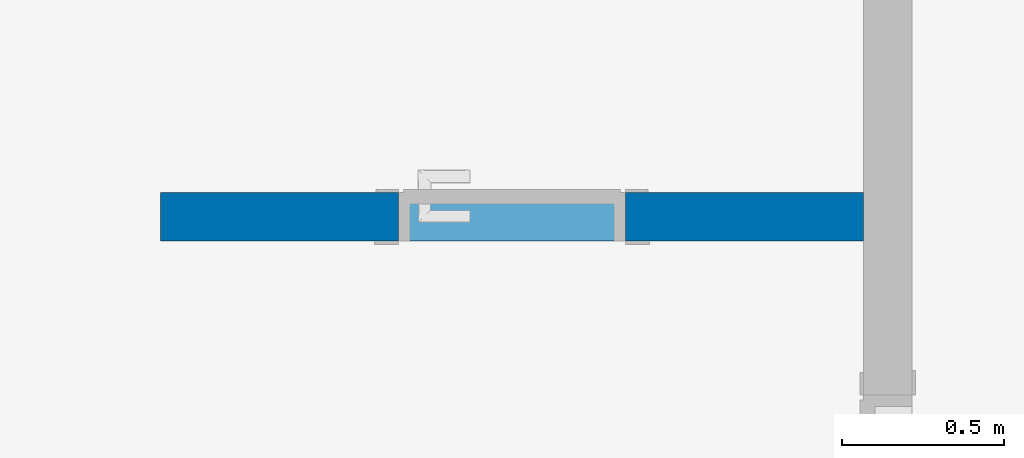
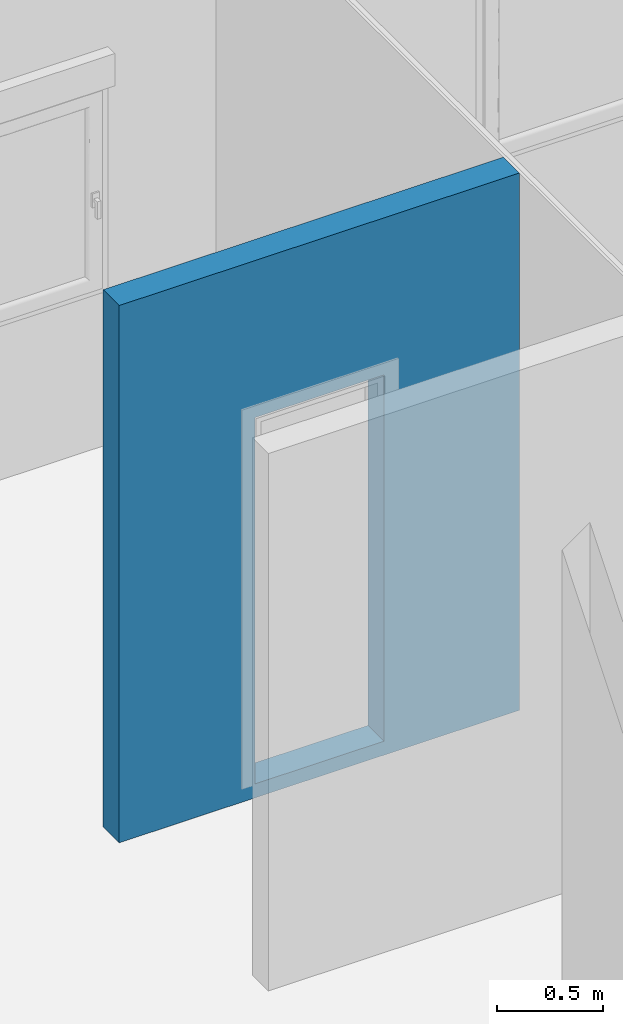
# One storey, part 7 of 11: 1 wall, 1 opening.
"""IFC2X3 building model written with IfcOpenShell, lengths in metres."""

from ifc_helpers import new_model, entity, si_unit, converted_unit, derived_unit, direction, frame, frame_2d, origin, place, context, subcontext, project, spatial, rectangle, extrude, material, layer, layer_set, layer_usage, type_object, element, save


model = new_model("IFC2X3")

# Units and contexts
model_context = context("Model", 3, precision=1e-05, world=origin(), true_north=direction((6.12303176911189e-17, 1.0)))
context_of_model = context(None, 3, precision=1e-05, world=origin(), true_north=direction((6.12303176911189e-17, 1.0)))
body_context = subcontext(model_context, "Body", "Model", "MODEL_VIEW")
ifc_project = project(units=[si_unit("LENGTHUNIT", "METRE"), si_unit("AREAUNIT", "SQUARE_METRE"), si_unit("VOLUMEUNIT", "CUBIC_METRE"), converted_unit("PLANEANGLEUNIT", "DEGREE", entity("IfcRatioMeasure", 0.0174532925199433), si_unit("PLANEANGLEUNIT", "RADIAN"), dimensions=[0, 0, 0, 0, 0, 0, 0]), si_unit("MASSUNIT", "GRAM", prefix="KILO"), si_unit("TIMEUNIT", "SECOND"), si_unit("FREQUENCYUNIT", "HERTZ"), si_unit("THERMODYNAMICTEMPERATUREUNIT", "DEGREE_CELSIUS"), derived_unit("THERMALTRANSMITTANCEUNIT", [(si_unit("MASSUNIT", "GRAM", prefix="KILO"), 1), (si_unit("THERMODYNAMICTEMPERATUREUNIT", "KELVIN"), -1), (si_unit("TIMEUNIT", "SECOND"), -3)]), derived_unit("VOLUMETRICFLOWRATEUNIT", [(si_unit("LENGTHUNIT", "METRE"), 3), (si_unit("TIMEUNIT", "SECOND"), -1)]), si_unit("ELECTRICCURRENTUNIT", "AMPERE"), si_unit("ELECTRICVOLTAGEUNIT", "VOLT"), si_unit("POWERUNIT", "WATT"), si_unit("FORCEUNIT", "NEWTON", prefix="KILO"), si_unit("ILLUMINANCEUNIT", "LUX"), si_unit("LUMINOUSFLUXUNIT", "LUMEN"), si_unit("LUMINOUSINTENSITYUNIT", "CANDELA"), si_unit("PRESSUREUNIT", "PASCAL")], contexts=[model_context, context_of_model])

# Site, building, storey
site_placement = place(None, origin())
site = spatial("IfcSite", under=ifc_project, at=site_placement, Name="Default", CompositionType="ELEMENT")
building_placement = place(site_placement, origin())
building = spatial("IfcBuilding", under=site, at=building_placement, CompositionType="ELEMENT")
storey_placement = place(building_placement, frame((0.0, 0.0, 0.12)))
storey = spatial("IfcBuildingStorey", under=building, at=storey_placement, Name="01.ES.FORJADO PLANTA BAJA", CompositionType="ELEMENT", Elevation=0.12)

# Wall, opening
ifc_material = material(Name="Muro por defecto")
ifc_layer = layer(ifc_material, 0.15)
ifc_layer_set = layer_set([ifc_layer], Name="Muro básico:Por defecto - 15 cm")
ifc_layer_usage = layer_usage(ifc_layer_set, "AXIS2", "POSITIVE", -0.075)
wall_type = type_object("IfcWallType", Name="Muro básico:Por defecto - 15 cm", PredefinedType="STANDARD", material=ifc_layer_set)
wall_placement = place(storey_placement, frame((11.4000000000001, 10.13, 0.0), z_axis=(0.0, 0.0, 1.0), x_axis=(-1.0, 0.0, 0.0)))
wall = element("IfcWallStandardCase", 1, at=wall_placement, inside=storey, type_object=wall_type, material=ifc_layer_usage, Name="Muro básico:Por defecto - 15 cm", ObjectType="Muro básico:Por defecto - 15 cm", context=body_context, shape_type="SweptSolid", body=[
    extrude(rectangle(XDim=2.17000000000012, YDim=0.150000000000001, at=frame_2d((1.08500000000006, 0.0), x_axis=(-1.0, 0.0))), origin(), (0.0, 0.0, 1.0), 3.08),
])
opening_placement = place(wall_placement, frame((1.43500000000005, 0.0749999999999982, 0.0799999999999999)))
element("IfcOpeningElement", 2, at=opening_placement, cuts=wall, Name="Puerta de 1 hoja:70 x 210 cm:1", ObjectType="Opening", context=body_context, shape_type="SweptSolid", body=[
    extrude(rectangle(XDim=2.09999999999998, YDim=0.7, at=frame_2d((1.04999999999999, 0.35), x_axis=(1.0, 0.0))), frame((0.0, 0.0, 0.0), z_axis=(0.0, -1.0, 0.0), x_axis=(0.0, 0.0, 1.0)), (0.0, 0.0, 1.0), 0.15),
])

save(model, "model.ifc")
